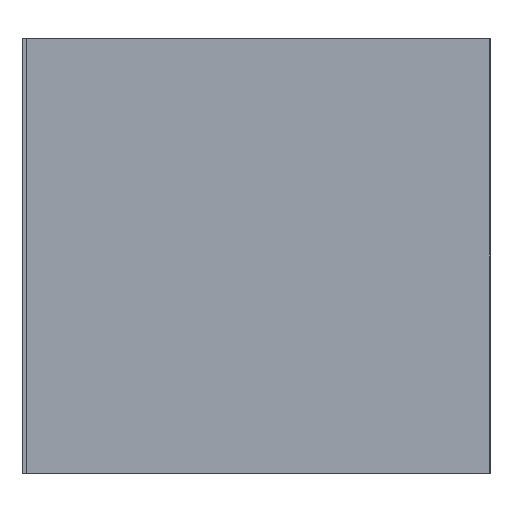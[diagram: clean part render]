
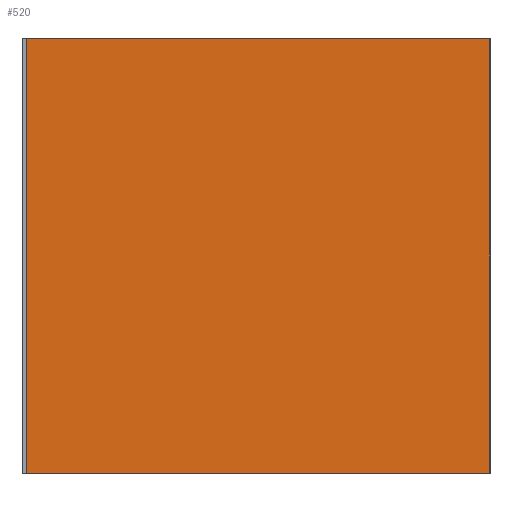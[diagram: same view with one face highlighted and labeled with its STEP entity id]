
A CAD part, left-side view. The second image highlights one B-rep face of the part: STEP entity #520.
In plain terms, the highlighted planar face has unit normal (-1, 0, 0).
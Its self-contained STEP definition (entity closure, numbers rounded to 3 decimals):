
#54=DIRECTION('',(0.,-1.,0.));
#55=VECTOR('',#54,640.);
#56=CARTESIAN_POINT('',(-450.,292.,-300.));
#57=LINE('',#56,#55);
#102=DIRECTION('',(0.,-1.,0.));
#103=VECTOR('',#102,640.);
#104=CARTESIAN_POINT('',(-450.,292.,300.));
#105=LINE('',#104,#103);
#106=DIRECTION('',(0.,0.,-1.));
#107=VECTOR('',#106,600.);
#108=CARTESIAN_POINT('',(-450.,-348.,300.));
#109=LINE('',#108,#107);
#110=DIRECTION('',(0.,0.,1.));
#111=VECTOR('',#110,600.);
#112=CARTESIAN_POINT('',(-450.,292.,-300.));
#113=LINE('',#112,#111);
#307=CARTESIAN_POINT('',(-450.,292.,-300.));
#309=VERTEX_POINT('',#307);
#311=CARTESIAN_POINT('',(-450.,292.,300.));
#313=VERTEX_POINT('',#311);
#367=CARTESIAN_POINT('',(-450.,-348.,300.));
#369=VERTEX_POINT('',#367);
#375=CARTESIAN_POINT('',(-450.,-348.,-300.));
#377=VERTEX_POINT('',#375);
#507=CARTESIAN_POINT('',(-450.,292.,-300.));
#508=DIRECTION('',(-1.,0.,0.));
#509=DIRECTION('',(0.,-1.,0.));
#510=AXIS2_PLACEMENT_3D('',#507,#508,#509);
#511=PLANE('',#510);
#512=ORIENTED_EDGE('',*,*,#433,.T.);
#514=ORIENTED_EDGE('',*,*,#513,.T.);
#515=ORIENTED_EDGE('',*,*,#483,.F.);
#517=ORIENTED_EDGE('',*,*,#516,.T.);
#518=EDGE_LOOP('',(#512,#514,#515,#517));
#519=FACE_OUTER_BOUND('',#518,.F.);
#433=EDGE_CURVE('',#313,#369,#105,.T.);
#483=EDGE_CURVE('',#309,#377,#57,.T.);
#513=EDGE_CURVE('',#369,#377,#109,.T.);
#516=EDGE_CURVE('',#309,#313,#113,.T.);
#520=ADVANCED_FACE('',(#519),#511,.T.);
